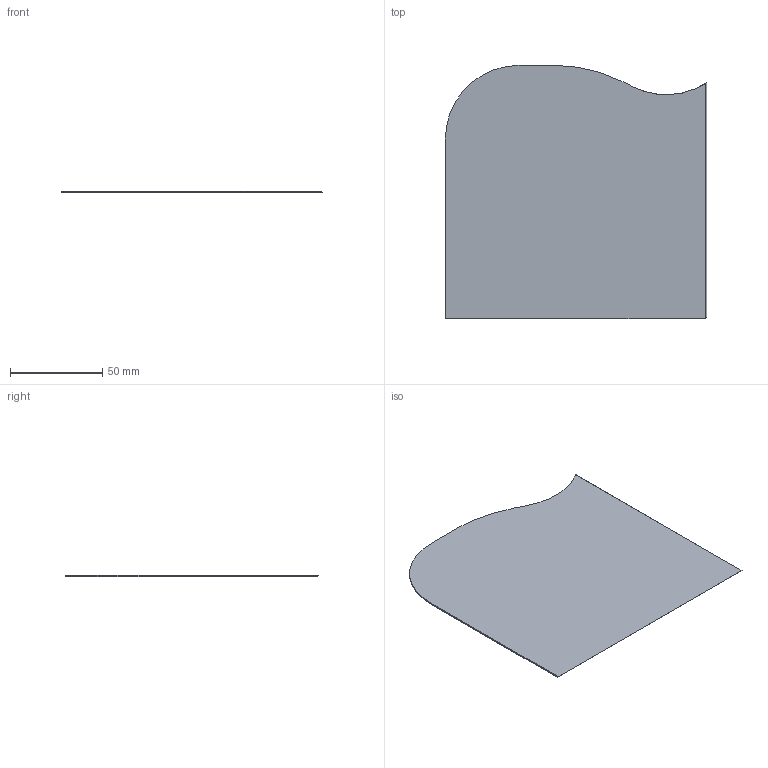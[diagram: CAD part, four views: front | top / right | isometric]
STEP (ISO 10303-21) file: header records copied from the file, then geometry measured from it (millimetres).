
FILE_DESCRIPTION(('STEP AP203'), '1');
FILE_NAME('麧罻 2', '', ('UNSPECIFIED'), ('UNSPECIFIED'), 'ASCON STEP Converter 1.3', 'ASCON Math Kernel', '');
FILE_SCHEMA(('CONFIG_CONTROL_DESIGN'));
Length unit declared in the file: millimetre
Bounding box: 141.9 x 137.52 x 0.8 mm (x, y, z)
Volume: 14671.7 mm3; surface area: 37187 mm2
Topology: 1 solids, 1 shells, 10 faces, 24 edges, 16 vertices
Faces by surface type: plane 7, cylinder 3
Entity records: 418 total; most frequent: CARTESIAN_POINT 54, DIRECTION 51, ORIENTED_EDGE 48, EDGE_CURVE 24, AXIS2_PLACEMENT_3D 17, LINE 17, VECTOR 17, VERTEX_POINT 16
